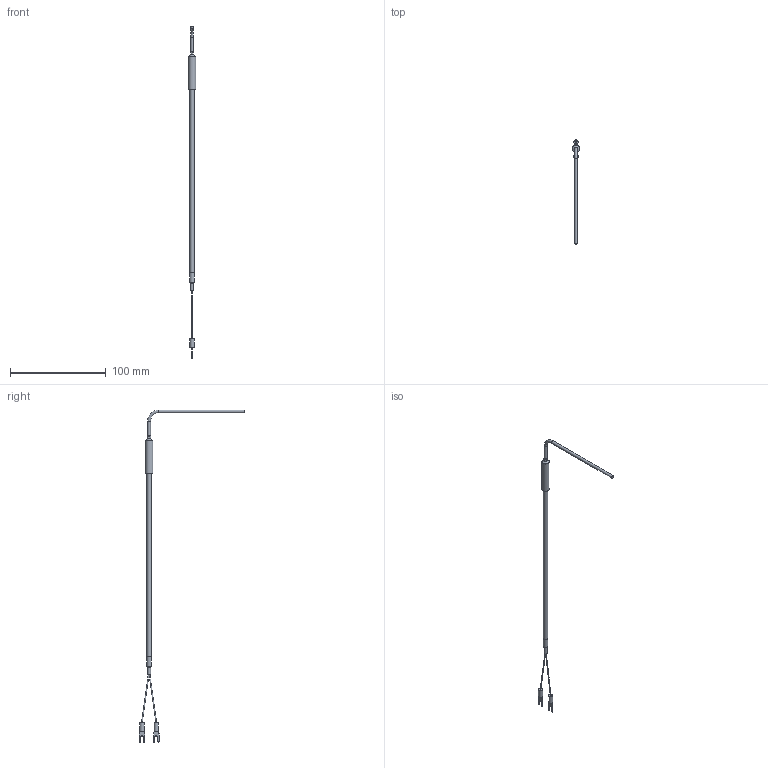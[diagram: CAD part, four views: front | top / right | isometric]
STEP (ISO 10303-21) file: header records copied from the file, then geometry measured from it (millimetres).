
FILE_DESCRIPTION (( 'STEP AP203' ), '1' );
FILE_NAME ('YIT111-2(0).STEP', '2025-03-19T01:41:52', ( '' ), ( '' ), 'SwSTEP 2.0', 'SolidWorks 2021', '' );
FILE_SCHEMA (( 'CONFIG_CONTROL_DESIGN' ));
Length unit declared in the file: millimetre
Products named in the file (1): YIT111-2(0)
Bounding box: 8 x 110.43 x 346.5 mm (x, y, z)
Volume: 6792.1 mm3; surface area: 6057.2 mm2
Topology: 1 solids, 1 shells, 70 faces, 168 edges, 109 vertices
Faces by surface type: plane 35, cylinder 22, bspline 8, cone 3, torus 2
Full cylindrical faces by diameter (mm): 3 x2, 3.16 x1, 4.5 x2, 4.8 x1, 5 x1, 8 x1
Entity records: 2185 total; most frequent: CARTESIAN_POINT 571, DIRECTION 312, ORIENTED_EDGE 296, EDGE_CURVE 148, AXIS2_PLACEMENT_3D 113, VERTEX_POINT 104, EDGE_LOOP 94, LINE 86
